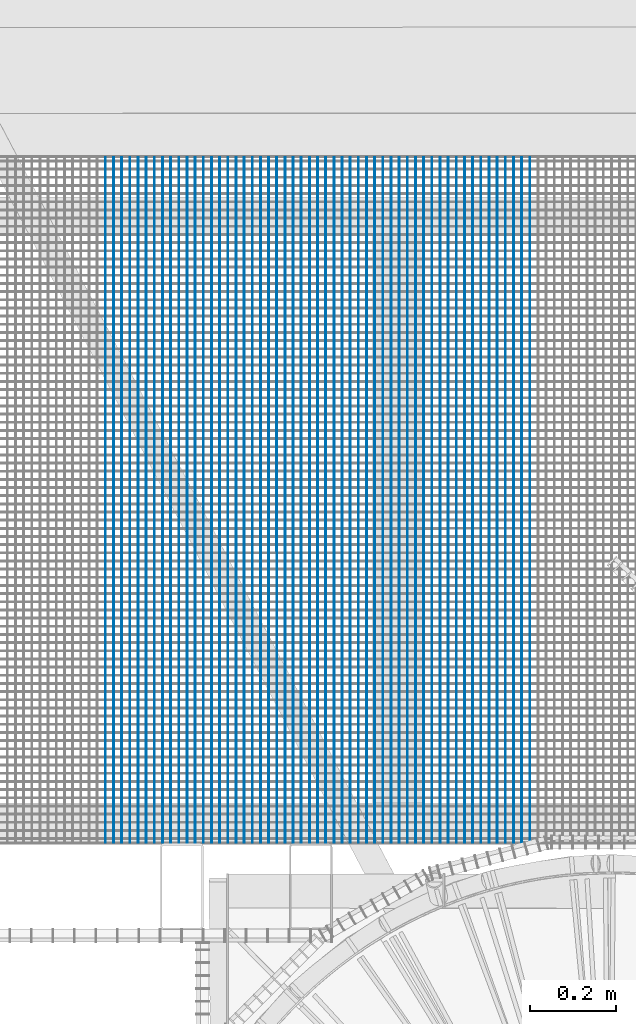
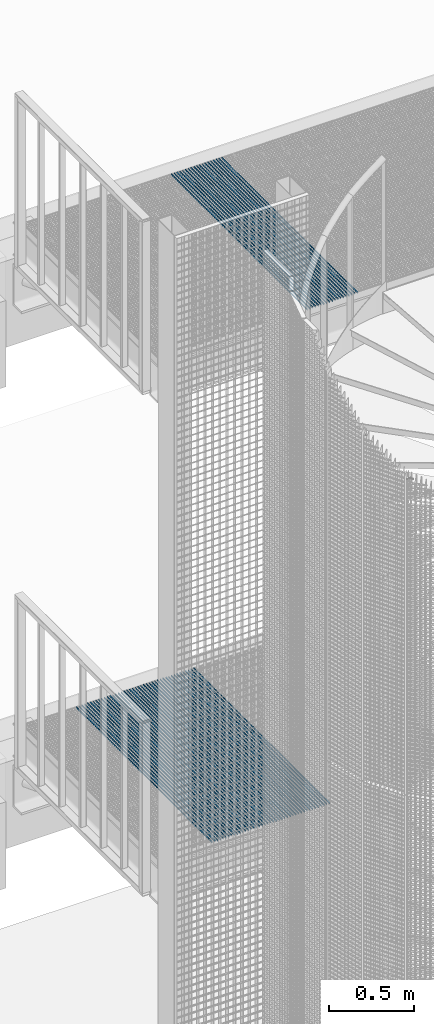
# One storey, part 93 of 1148: 62 beams, 2 elements without a shape of their own.
"""IFC2X3 building model written with IfcOpenShell, lengths in millimetres."""

import ifcopenshell
import ifcopenshell.guid

model = None  # the IFC model being written
_history = None  # IfcOwnerHistory: only IFC2X3 demands one
_inside = {}  # id of a spatial element -> (the spatial element, [elements in it])
_under = {}  # id of a project, library or spatial element -> (it, [spatial elements below it])
_declared = {}  # id of a project -> (the project, [libraries it declares])
_typed = {}  # id of a type object -> (the type object, [elements of that type])
_made_of = {}  # id of a material, layer set ... -> (it, [elements and type objects made of it])


def new_model(schema):
    """Start an empty IFC model of exactly this schema.

    Asked for "IFC4X3", IfcOpenShell would pick the latest addendum, in which some entities
    have other attributes; the version numbers below select the first issue.
    IFC2X3 requires an IfcOwnerHistory on every rooted entity: one is made here for all.
    """
    global model, _history
    if schema == "IFC4X3":
        model = ifcopenshell.file(schema_version=(4, 3, 0, 0))
    else:
        model = ifcopenshell.file(schema=schema)
    _inside.clear()
    _under.clear()
    _declared.clear()
    _typed.clear()
    _made_of.clear()
    _history = None
    if model.schema == "IFC2X3":
        org = make("IfcOrganization", Name="unknown")
        user = make(
            "IfcPersonAndOrganization",
            ThePerson=make("IfcPerson", FamilyName="unknown"),
            TheOrganization=org,
        )
        app = make(
            "IfcApplication",
            ApplicationDeveloper=org,
            Version="unknown",
            ApplicationFullName="unknown",
            ApplicationIdentifier="unknown",
        )
        _history = make(
            "IfcOwnerHistory",
            OwningUser=user,
            OwningApplication=app,
            ChangeAction="ADDED",
            CreationDate=0,
        )
    return model


def make(cls, **values):
    """One entity of the class cls with the attributes given. An attribute that is None is left unset."""
    return model.create_entity(
        cls, **{name: value for name, value in values.items() if value is not None}
    )


def rooted(cls, **values):
    """An entity with a GlobalId (a new one), such as an element, a storey or a relation."""
    return make(cls, GlobalId=ifcopenshell.guid.new(), OwnerHistory=_history, **values)


def si_unit(unit_type, name, prefix=None):
    """IfcSIUnit, for example si_unit("LENGTHUNIT", "METRE", prefix="MILLI")."""
    return make("IfcSIUnit", UnitType=unit_type, Prefix=prefix, Name=name)


def assignment(units):
    """IfcUnitAssignment: the units of a project."""
    return None if units is None else make("IfcUnitAssignment", Units=units)


def point(xyz):
    """IfcCartesianPoint."""
    return None if xyz is None else make("IfcCartesianPoint", Coordinates=xyz)


def direction(xyz):
    """IfcDirection."""
    return None if xyz is None else make("IfcDirection", DirectionRatios=xyz)


def frame(location, z_axis=None, x_axis=None):
    """IfcAxis2Placement3D, a coordinate frame: its origin and axes. An axis left out is left unset."""
    return make(
        "IfcAxis2Placement3D",
        Location=point(location),
        Axis=direction(z_axis),
        RefDirection=direction(x_axis),
    )


def frame_2d(location, x_axis=None):
    """IfcAxis2Placement2D, a coordinate frame in the plane: its origin and x axis."""
    return make(
        "IfcAxis2Placement2D", Location=point(location), RefDirection=direction(x_axis)
    )


def origin_with_axes():
    """The frame at (0, 0, 0) with the z axis (0, 0, 1) and the x axis (1, 0, 0) written out."""
    return frame((0.0, 0.0, 0.0), z_axis=(0.0, 0.0, 1.0), x_axis=(1.0, 0.0, 0.0))


def origin_2d_with_axis():
    """The frame at (0, 0) in the plane with the x axis (1, 0) written out."""
    return frame_2d((0.0, 0.0), x_axis=(1.0, 0.0))


def place(relative_to, where):
    """IfcLocalPlacement: puts the frame where relative to a parent placement (None: the world)."""
    return make(
        "IfcLocalPlacement", PlacementRelTo=relative_to, RelativePlacement=where
    )


def context(
    kind, dimensions, precision=None, world=None, true_north=None, identifier=None
):
    """IfcGeometricRepresentationContext, for example the 3D "Model" context."""
    return make(
        "IfcGeometricRepresentationContext",
        ContextIdentifier=identifier,
        ContextType=kind,
        CoordinateSpaceDimension=dimensions,
        Precision=precision,
        WorldCoordinateSystem=world,
        TrueNorth=true_north,
    )


def subcontext(parent, identifier, kind, view, scale=None):
    """IfcGeometricRepresentationSubContext, for example "Body" below "Model"."""
    return make(
        "IfcGeometricRepresentationSubContext",
        ContextIdentifier=identifier,
        ContextType=kind,
        ParentContext=parent,
        TargetScale=scale,
        TargetView=view,
    )


def project(units=None, contexts=None):
    """IfcProject with its units and contexts."""
    return rooted(
        "IfcProject",
        Name="project",
        RepresentationContexts=contexts,
        UnitsInContext=assignment(units),
    )


def spatial(cls, under=None, at=None, **own):
    """A site, building, storey or space (cls), placed at a placement, below another one or the project."""
    s = rooted(cls, ObjectPlacement=at, **own)
    if under is not None:
        _under.setdefault(under.id(), (under, []))[1].append(s)
    return s


def profile(cls, at=None, kind="AREA", **sizes):
    """A parametric profile (cls). Its sizes go by their IFC names, for example OverallWidth=200.0."""
    return make(cls, ProfileType=kind, Position=at, **sizes)


def rectangle(**sizes):
    """IfcRectangleProfileDef."""
    return profile("IfcRectangleProfileDef", **sizes)


def extrude(swept, where, along, depth):
    """IfcExtrudedAreaSolid: the profile swept, set in the frame where, extruded along a direction by depth."""
    return make(
        "IfcExtrudedAreaSolid",
        SweptArea=swept,
        Position=where,
        ExtrudedDirection=direction(along),
        Depth=depth,
    )


def shape(context_of_items, identifier, shape_type, items):
    """IfcShapeRepresentation: the items that make up one representation, for example the "Body"."""
    return make(
        "IfcShapeRepresentation",
        ContextOfItems=context_of_items,
        RepresentationIdentifier=identifier,
        RepresentationType=shape_type,
        Items=items,
    )


def material(Name=None, Category=None):
    """IfcMaterial."""
    return make("IfcMaterial", Name=Name, Category=Category)


def made_of(thing, what):
    """Note that an element or type object is made of a material, layer set ...; save() writes the relation."""
    if what is not None:
        _made_of.setdefault(what.id(), (what, []))[1].append(thing)
    return thing


def type_object(cls, material=None, **own):
    """A type object (cls), such as IfcWallType, which elements share."""
    return made_of(rooted(cls, **own), material)


def element(
    cls,
    number,
    at=None,
    inside=None,
    cuts=None,
    type_object=None,
    material=None,
    context=None,
    identifier="Body",
    shape_type=None,
    held_by="IfcProductDefinitionShape",
    body=None,
    shapes=None,
    **own,
):
    """One element of the class cls, such as IfcWall. Its Tag is "e" and its number.

    at: its placement. inside: the storey or other place that contains it. cuts: it is an
    opening in that element (IfcRelVoidsElement). A single representation is given by context,
    identifier, shape_type and body (its items); several are given by shapes. held_by: the class
    of the entity that holds the representations. save() writes the other relations.
    """
    e = rooted(cls, Tag="e%d" % number, ObjectPlacement=at, **own)
    if body is not None:
        shapes = [shape(context, identifier, shape_type, body)]
    if shapes is not None:
        e.Representation = make(held_by, Representations=shapes)
    if inside is not None:
        _inside.setdefault(inside.id(), (inside, []))[1].append(e)
    if cuts is not None:
        rooted(
            "IfcRelVoidsElement", RelatingBuildingElement=cuts, RelatedOpeningElement=e
        )
    if type_object is not None:
        _typed.setdefault(type_object.id(), (type_object, []))[1].append(e)
    return made_of(e, material)


def aggregate(whole, parts):
    """IfcRelAggregates: a whole, such as a stair, and the parts it consists of."""
    return rooted("IfcRelAggregates", RelatingObject=whole, RelatedObjects=parts)


def save(model, path):
    """Write the relations noted so far, then the file.

    IfcRelAggregates (storeys below a building ...), IfcRelContainedInSpatialStructure (elements
    in a storey), IfcRelDefinesByType, IfcRelAssociatesMaterial and IfcRelDeclares: one each for
    every whole, place, type object, material and project.
    """
    for whole, parts in _under.values():
        aggregate(whole, parts)
    for where, things in _inside.values():
        rooted(
            "IfcRelContainedInSpatialStructure",
            RelatedElements=things,
            RelatingStructure=where,
        )
    for kind, things in _typed.values():
        rooted("IfcRelDefinesByType", RelatedObjects=things, RelatingType=kind)
    for what, things in _made_of.values():
        rooted("IfcRelAssociatesMaterial", RelatedObjects=things, RelatingMaterial=what)
    for by, libraries in _declared.values():
        rooted("IfcRelDeclares", RelatingContext=by, RelatedDefinitions=libraries)
    model.write(path)


model = new_model("IFC2X3")

# Units and contexts
model_context = context("Model", 3, precision=1e-05, world=origin_with_axes())
body_context = subcontext(model_context, "Body", "Model", "MODEL_VIEW")
ifc_project = project(units=[si_unit("LENGTHUNIT", "METRE", prefix="MILLI"), si_unit("AREAUNIT", "SQUARE_METRE"), si_unit("VOLUMEUNIT", "CUBIC_METRE"), si_unit("MASSUNIT", "GRAM", prefix="KILO"), si_unit("TIMEUNIT", "SECOND"), si_unit("PLANEANGLEUNIT", "RADIAN"), si_unit("SOLIDANGLEUNIT", "STERADIAN"), si_unit("THERMODYNAMICTEMPERATUREUNIT", "DEGREE_CELSIUS"), si_unit("LUMINOUSINTENSITYUNIT", "LUMEN")], contexts=[model_context])

# Site, building, storey
site_placement = place(None, origin_with_axes())
site = spatial("IfcSite", under=ifc_project, at=site_placement, Name="Undefined", CompositionType="ELEMENT")
building_placement = place(site_placement, origin_with_axes())
building = spatial("IfcBuilding", under=site, at=building_placement, Name="Undefined", CompositionType="ELEMENT")
storey_placement = place(building_placement, origin_with_axes())
storey = spatial("IfcBuildingStorey", under=building, at=storey_placement, Name="Undefined", CompositionType="ELEMENT", Elevation=0.0)

# Assembly, beams
assembly_1_placement = place(storey_placement, origin_with_axes())
assembly_1 = element("IfcElementAssembly", 1, at=assembly_1_placement, inside=storey, Name="BORDURE", AssemblyPlace="NOTDEFINED", PredefinedType="NOTDEFINED")
ifc_material = material(Name="STEEL/S235JR")
beam_type = type_object("IfcBeamType", Name="PL2*10", PredefinedType="NOTDEFINED")
beam_1_placement = place(assembly_1_placement, frame((21068.1154247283, 1101.99970052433, 17285.0), z_axis=(0.0, 0.0, 1.0), x_axis=(-4.50599999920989e-06, 0.999999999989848, 0.0)))
beam_1 = element("IfcBeam", 2, at=beam_1_placement, type_object=beam_type, material=ifc_material, Name="ENTRETOISE", context=body_context, shape_type="SweptSolid", body=[
    extrude(rectangle(XDim=2.0, YDim=10.0, at=origin_2d_with_axis()), frame((1596.0000000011, -1.35186458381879e-18, -7.27595761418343e-12), z_axis=(-1.0, 0.0, 0.0), x_axis=(0.0, -1.0, 0.0)), (0.0, 0.0, 1.0), 1596.0),
])
beam_2_placement = place(assembly_1_placement, frame((21087.1154247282, 1101.99979404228, 17285.0), z_axis=(0.0, 0.0, 1.0), x_axis=(-4.50599999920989e-06, 0.999999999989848, 0.0)))
beam_2 = element("IfcBeam", 3, at=beam_2_placement, type_object=beam_type, material=ifc_material, Name="ENTRETOISE", context=body_context, shape_type="SweptSolid", body=[
    extrude(rectangle(XDim=2.0, YDim=10.0, at=origin_2d_with_axis()), frame((1596.0000000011, -1.35186458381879e-18, -7.27595761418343e-12), z_axis=(-1.0, 0.0, 0.0), x_axis=(0.0, -1.0, 0.0)), (0.0, 0.0, 1.0), 1596.0),
])
beam_3_placement = place(assembly_1_placement, frame((21106.1154247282, 1101.99988756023, 17285.0), z_axis=(0.0, 0.0, 1.0), x_axis=(-4.50599999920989e-06, 0.999999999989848, 0.0)))
beam_3 = element("IfcBeam", 4, at=beam_3_placement, type_object=beam_type, material=ifc_material, Name="ENTRETOISE", context=body_context, shape_type="SweptSolid", body=[
    extrude(rectangle(XDim=2.0, YDim=10.0, at=origin_2d_with_axis()), frame((1596.0000000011, -1.35186458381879e-18, -7.27595761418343e-12), z_axis=(-1.0, 0.0, 0.0), x_axis=(0.0, -1.0, 0.0)), (0.0, 0.0, 1.0), 1596.0),
])
beam_4_placement = place(assembly_1_placement, frame((21125.1154247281, 1101.99998107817, 17285.0), z_axis=(0.0, 0.0, 1.0), x_axis=(-4.50599999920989e-06, 0.999999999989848, 0.0)))
beam_4 = element("IfcBeam", 5, at=beam_4_placement, type_object=beam_type, material=ifc_material, Name="ENTRETOISE", context=body_context, shape_type="SweptSolid", body=[
    extrude(rectangle(XDim=2.0, YDim=10.0, at=origin_2d_with_axis()), frame((1596.0000000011, -1.35186458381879e-18, -7.27595761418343e-12), z_axis=(-1.0, 0.0, 0.0), x_axis=(0.0, -1.0, 0.0)), (0.0, 0.0, 1.0), 1596.0),
])
beam_5_placement = place(assembly_1_placement, frame((21144.115424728, 1102.00007459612, 17285.0), z_axis=(0.0, 0.0, 1.0), x_axis=(-4.50599999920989e-06, 0.999999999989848, 0.0)))
beam_5 = element("IfcBeam", 6, at=beam_5_placement, type_object=beam_type, material=ifc_material, Name="ENTRETOISE", context=body_context, shape_type="SweptSolid", body=[
    extrude(rectangle(XDim=2.0, YDim=10.0, at=origin_2d_with_axis()), frame((1596.0000000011, -1.35186458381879e-18, -7.27595761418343e-12), z_axis=(-1.0, 0.0, 0.0), x_axis=(0.0, -1.0, 0.0)), (0.0, 0.0, 1.0), 1596.0),
])
beam_6_placement = place(assembly_1_placement, frame((21163.1154247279, 1102.00016811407, 17285.0), z_axis=(0.0, 0.0, 1.0), x_axis=(-4.50599999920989e-06, 0.999999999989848, 0.0)))
beam_6 = element("IfcBeam", 7, at=beam_6_placement, type_object=beam_type, material=ifc_material, Name="ENTRETOISE", context=body_context, shape_type="SweptSolid", body=[
    extrude(rectangle(XDim=2.0, YDim=10.0, at=origin_2d_with_axis()), frame((1596.0000000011, -1.35186458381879e-18, -7.27595761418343e-12), z_axis=(-1.0, 0.0, 0.0), x_axis=(0.0, -1.0, 0.0)), (0.0, 0.0, 1.0), 1596.0),
])
beam_7_placement = place(assembly_1_placement, frame((21182.1154247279, 1102.00026163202, 17285.0), z_axis=(0.0, 0.0, 1.0), x_axis=(-4.50599999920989e-06, 0.999999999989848, 0.0)))
beam_7 = element("IfcBeam", 8, at=beam_7_placement, type_object=beam_type, material=ifc_material, Name="ENTRETOISE", context=body_context, shape_type="SweptSolid", body=[
    extrude(rectangle(XDim=2.0, YDim=10.0, at=origin_2d_with_axis()), frame((1596.0000000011, -1.35186458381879e-18, -7.27595761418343e-12), z_axis=(-1.0, 0.0, 0.0), x_axis=(0.0, -1.0, 0.0)), (0.0, 0.0, 1.0), 1596.0),
])
beam_8_placement = place(assembly_1_placement, frame((21201.1154247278, 1102.00035514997, 17285.0), z_axis=(0.0, 0.0, 1.0), x_axis=(-4.50599999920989e-06, 0.999999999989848, 0.0)))
beam_8 = element("IfcBeam", 9, at=beam_8_placement, type_object=beam_type, material=ifc_material, Name="ENTRETOISE", context=body_context, shape_type="SweptSolid", body=[
    extrude(rectangle(XDim=2.0, YDim=10.0, at=origin_2d_with_axis()), frame((1596.0000000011, -1.35186458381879e-18, -7.27595761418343e-12), z_axis=(-1.0, 0.0, 0.0), x_axis=(0.0, -1.0, 0.0)), (0.0, 0.0, 1.0), 1596.0),
])
beam_9_placement = place(assembly_1_placement, frame((21220.1154247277, 1102.00044866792, 17285.0), z_axis=(0.0, 0.0, 1.0), x_axis=(-4.50599999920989e-06, 0.999999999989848, 0.0)))
beam_9 = element("IfcBeam", 10, at=beam_9_placement, type_object=beam_type, material=ifc_material, Name="ENTRETOISE", context=body_context, shape_type="SweptSolid", body=[
    extrude(rectangle(XDim=2.0, YDim=10.0, at=origin_2d_with_axis()), frame((1596.0000000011, -1.35186458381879e-18, -7.27595761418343e-12), z_axis=(-1.0, 0.0, 0.0), x_axis=(0.0, -1.0, 0.0)), (0.0, 0.0, 1.0), 1596.0),
])
beam_10_placement = place(assembly_1_placement, frame((21239.1154247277, 1102.00054218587, 17285.0), z_axis=(0.0, 0.0, 1.0), x_axis=(-4.50599999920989e-06, 0.999999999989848, 0.0)))
beam_10 = element("IfcBeam", 11, at=beam_10_placement, type_object=beam_type, material=ifc_material, Name="ENTRETOISE", context=body_context, shape_type="SweptSolid", body=[
    extrude(rectangle(XDim=2.0, YDim=10.0, at=origin_2d_with_axis()), frame((1596.0000000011, -1.35186458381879e-18, -7.27595761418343e-12), z_axis=(-1.0, 0.0, 0.0), x_axis=(0.0, -1.0, 0.0)), (0.0, 0.0, 1.0), 1596.0),
])
beam_11_placement = place(assembly_1_placement, frame((21258.1154247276, 1102.00063570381, 17285.0), z_axis=(0.0, 0.0, 1.0), x_axis=(-4.50599999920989e-06, 0.999999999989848, 0.0)))
beam_11 = element("IfcBeam", 12, at=beam_11_placement, type_object=beam_type, material=ifc_material, Name="ENTRETOISE", context=body_context, shape_type="SweptSolid", body=[
    extrude(rectangle(XDim=2.0, YDim=10.0, at=origin_2d_with_axis()), frame((1596.0000000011, -1.35186458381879e-18, -7.27595761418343e-12), z_axis=(-1.0, 0.0, 0.0), x_axis=(0.0, -1.0, 0.0)), (0.0, 0.0, 1.0), 1596.0),
])
beam_12_placement = place(assembly_1_placement, frame((21277.1154247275, 1102.00072922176, 17285.0), z_axis=(0.0, 0.0, 1.0), x_axis=(-4.50599999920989e-06, 0.999999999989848, 0.0)))
beam_12 = element("IfcBeam", 13, at=beam_12_placement, type_object=beam_type, material=ifc_material, Name="ENTRETOISE", context=body_context, shape_type="SweptSolid", body=[
    extrude(rectangle(XDim=2.0, YDim=10.0, at=origin_2d_with_axis()), frame((1596.0000000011, -1.35186458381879e-18, -7.27595761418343e-12), z_axis=(-1.0, 0.0, 0.0), x_axis=(0.0, -1.0, 0.0)), (0.0, 0.0, 1.0), 1596.0),
])
beam_13_placement = place(assembly_1_placement, frame((21296.1154247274, 1102.00082273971, 17285.0), z_axis=(0.0, 0.0, 1.0), x_axis=(-4.50599999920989e-06, 0.999999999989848, 0.0)))
beam_13 = element("IfcBeam", 14, at=beam_13_placement, type_object=beam_type, material=ifc_material, Name="ENTRETOISE", context=body_context, shape_type="SweptSolid", body=[
    extrude(rectangle(XDim=2.0, YDim=10.0, at=origin_2d_with_axis()), frame((1596.0000000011, -1.35186458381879e-18, -7.27595761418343e-12), z_axis=(-1.0, 0.0, 0.0), x_axis=(0.0, -1.0, 0.0)), (0.0, 0.0, 1.0), 1596.0),
])
beam_14_placement = place(assembly_1_placement, frame((21315.1154247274, 1102.00091625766, 17285.0), z_axis=(0.0, 0.0, 1.0), x_axis=(-4.50599999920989e-06, 0.999999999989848, 0.0)))
beam_14 = element("IfcBeam", 15, at=beam_14_placement, type_object=beam_type, material=ifc_material, Name="ENTRETOISE", context=body_context, shape_type="SweptSolid", body=[
    extrude(rectangle(XDim=2.0, YDim=10.0, at=origin_2d_with_axis()), frame((1596.0000000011, -1.35186458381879e-18, -7.27595761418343e-12), z_axis=(-1.0, 0.0, 0.0), x_axis=(0.0, -1.0, 0.0)), (0.0, 0.0, 1.0), 1596.0),
])
beam_15_placement = place(assembly_1_placement, frame((21334.1154247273, 1102.00100977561, 17285.0), z_axis=(0.0, 0.0, 1.0), x_axis=(-4.50599999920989e-06, 0.999999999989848, 0.0)))
beam_15 = element("IfcBeam", 16, at=beam_15_placement, type_object=beam_type, material=ifc_material, Name="ENTRETOISE", context=body_context, shape_type="SweptSolid", body=[
    extrude(rectangle(XDim=2.0, YDim=10.0, at=origin_2d_with_axis()), frame((1596.0000000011, -1.35186458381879e-18, -7.27595761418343e-12), z_axis=(-1.0, 0.0, 0.0), x_axis=(0.0, -1.0, 0.0)), (0.0, 0.0, 1.0), 1596.0),
])
beam_16_placement = place(assembly_1_placement, frame((21353.1154247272, 1102.00110329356, 17285.0), z_axis=(0.0, 0.0, 1.0), x_axis=(-4.50599999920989e-06, 0.999999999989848, 0.0)))
beam_16 = element("IfcBeam", 17, at=beam_16_placement, type_object=beam_type, material=ifc_material, Name="ENTRETOISE", context=body_context, shape_type="SweptSolid", body=[
    extrude(rectangle(XDim=2.0, YDim=10.0, at=origin_2d_with_axis()), frame((1596.0000000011, -1.35186458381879e-18, -7.27595761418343e-12), z_axis=(-1.0, 0.0, 0.0), x_axis=(0.0, -1.0, 0.0)), (0.0, 0.0, 1.0), 1596.0),
])
beam_17_placement = place(assembly_1_placement, frame((21372.1154247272, 1102.0011968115, 17285.0), z_axis=(0.0, 0.0, 1.0), x_axis=(-4.50599999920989e-06, 0.999999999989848, 0.0)))
beam_17 = element("IfcBeam", 18, at=beam_17_placement, type_object=beam_type, material=ifc_material, Name="ENTRETOISE", context=body_context, shape_type="SweptSolid", body=[
    extrude(rectangle(XDim=2.0, YDim=10.0, at=origin_2d_with_axis()), frame((1596.0000000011, -1.35186458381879e-18, -7.27595761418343e-12), z_axis=(-1.0, 0.0, 0.0), x_axis=(0.0, -1.0, 0.0)), (0.0, 0.0, 1.0), 1596.0),
])
beam_18_placement = place(assembly_1_placement, frame((21391.1154247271, 1102.00129032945, 17285.0), z_axis=(0.0, 0.0, 1.0), x_axis=(-4.50599999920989e-06, 0.999999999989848, 0.0)))
beam_18 = element("IfcBeam", 19, at=beam_18_placement, type_object=beam_type, material=ifc_material, Name="ENTRETOISE", context=body_context, shape_type="SweptSolid", body=[
    extrude(rectangle(XDim=2.0, YDim=10.0, at=origin_2d_with_axis()), frame((1596.0000000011, -1.35186458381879e-18, -7.27595761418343e-12), z_axis=(-1.0, 0.0, 0.0), x_axis=(0.0, -1.0, 0.0)), (0.0, 0.0, 1.0), 1596.0),
])
beam_19_placement = place(assembly_1_placement, frame((21410.115424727, 1102.0013838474, 17285.0), z_axis=(0.0, 0.0, 1.0), x_axis=(-4.50599999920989e-06, 0.999999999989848, 0.0)))
beam_19 = element("IfcBeam", 20, at=beam_19_placement, type_object=beam_type, material=ifc_material, Name="ENTRETOISE", context=body_context, shape_type="SweptSolid", body=[
    extrude(rectangle(XDim=2.0, YDim=10.0, at=origin_2d_with_axis()), frame((1596.0000000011, -1.35186458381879e-18, -7.27595761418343e-12), z_axis=(-1.0, 0.0, 0.0), x_axis=(0.0, -1.0, 0.0)), (0.0, 0.0, 1.0), 1596.0),
])
aggregate(assembly_1, [beam_1, beam_2, beam_3, beam_4, beam_5, beam_6, beam_7, beam_8, beam_9, beam_10, beam_11, beam_12, beam_13, beam_14, beam_15, beam_16, beam_17, beam_18, beam_19])

assembly_2_placement = place(storey_placement, origin_with_axes())
assembly_2 = element("IfcElementAssembly", 21, at=assembly_2_placement, inside=storey, Name="BORDURE", AssemblyPlace="NOTDEFINED", PredefinedType="NOTDEFINED")
beam_20_placement = place(assembly_2_placement, frame((20422.1154247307, 1101.99652091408, 13685.0), z_axis=(0.0, 0.0, 1.0), x_axis=(-4.50599999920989e-06, 0.999999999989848, 0.0)))
beam_20 = element("IfcBeam", 22, at=beam_20_placement, type_object=beam_type, material=ifc_material, Name="ENTRETOISE", context=body_context, shape_type="SweptSolid", body=[
    extrude(rectangle(XDim=2.0, YDim=10.0, at=origin_2d_with_axis()), frame((1596.0000000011, -1.35186458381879e-18, -7.27595761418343e-12), z_axis=(-1.0, 0.0, 0.0), x_axis=(0.0, -1.0, 0.0)), (0.0, 0.0, 1.0), 1596.0),
])
beam_21_placement = place(assembly_2_placement, frame((20441.1154247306, 1101.99661443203, 13685.0), z_axis=(0.0, 0.0, 1.0), x_axis=(-4.50599999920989e-06, 0.999999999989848, 0.0)))
beam_21 = element("IfcBeam", 23, at=beam_21_placement, type_object=beam_type, material=ifc_material, Name="ENTRETOISE", context=body_context, shape_type="SweptSolid", body=[
    extrude(rectangle(XDim=2.0, YDim=10.0, at=origin_2d_with_axis()), frame((1596.0000000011, -1.35186458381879e-18, -7.27595761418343e-12), z_axis=(-1.0, 0.0, 0.0), x_axis=(0.0, -1.0, 0.0)), (0.0, 0.0, 1.0), 1596.0),
])
beam_22_placement = place(assembly_2_placement, frame((20460.1154247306, 1101.99670794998, 13685.0), z_axis=(0.0, 0.0, 1.0), x_axis=(-4.50599999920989e-06, 0.999999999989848, 0.0)))
beam_22 = element("IfcBeam", 24, at=beam_22_placement, type_object=beam_type, material=ifc_material, Name="ENTRETOISE", context=body_context, shape_type="SweptSolid", body=[
    extrude(rectangle(XDim=2.0, YDim=10.0, at=origin_2d_with_axis()), frame((1596.0000000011, -1.35186458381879e-18, -7.27595761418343e-12), z_axis=(-1.0, 0.0, 0.0), x_axis=(0.0, -1.0, 0.0)), (0.0, 0.0, 1.0), 1596.0),
])
beam_23_placement = place(assembly_2_placement, frame((20479.1154247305, 1101.99680146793, 13685.0), z_axis=(0.0, 0.0, 1.0), x_axis=(-4.50599999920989e-06, 0.999999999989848, 0.0)))
beam_23 = element("IfcBeam", 25, at=beam_23_placement, type_object=beam_type, material=ifc_material, Name="ENTRETOISE", context=body_context, shape_type="SweptSolid", body=[
    extrude(rectangle(XDim=2.0, YDim=10.0, at=origin_2d_with_axis()), frame((1596.0000000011, -1.35186458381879e-18, -7.27595761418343e-12), z_axis=(-1.0, 0.0, 0.0), x_axis=(0.0, -1.0, 0.0)), (0.0, 0.0, 1.0), 1596.0),
])
beam_24_placement = place(assembly_2_placement, frame((20498.1154247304, 1101.99689498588, 13685.0), z_axis=(0.0, 0.0, 1.0), x_axis=(-4.50599999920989e-06, 0.999999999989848, 0.0)))
beam_24 = element("IfcBeam", 26, at=beam_24_placement, type_object=beam_type, material=ifc_material, Name="ENTRETOISE", context=body_context, shape_type="SweptSolid", body=[
    extrude(rectangle(XDim=2.0, YDim=10.0, at=origin_2d_with_axis()), frame((1596.0000000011, -1.35186458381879e-18, -7.27595761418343e-12), z_axis=(-1.0, 0.0, 0.0), x_axis=(0.0, -1.0, 0.0)), (0.0, 0.0, 1.0), 1596.0),
])
beam_25_placement = place(assembly_2_placement, frame((20517.1154247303, 1101.99698850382, 13685.0), z_axis=(0.0, 0.0, 1.0), x_axis=(-4.50599999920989e-06, 0.999999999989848, 0.0)))
beam_25 = element("IfcBeam", 27, at=beam_25_placement, type_object=beam_type, material=ifc_material, Name="ENTRETOISE", context=body_context, shape_type="SweptSolid", body=[
    extrude(rectangle(XDim=2.0, YDim=10.0, at=origin_2d_with_axis()), frame((1596.0000000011, -1.35186458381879e-18, -7.27595761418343e-12), z_axis=(-1.0, 0.0, 0.0), x_axis=(0.0, -1.0, 0.0)), (0.0, 0.0, 1.0), 1596.0),
])
beam_26_placement = place(assembly_2_placement, frame((20536.1154247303, 1101.99708202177, 13685.0), z_axis=(0.0, 0.0, 1.0), x_axis=(-4.50599999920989e-06, 0.999999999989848, 0.0)))
beam_26 = element("IfcBeam", 28, at=beam_26_placement, type_object=beam_type, material=ifc_material, Name="ENTRETOISE", context=body_context, shape_type="SweptSolid", body=[
    extrude(rectangle(XDim=2.0, YDim=10.0, at=origin_2d_with_axis()), frame((1596.0000000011, -1.35186458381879e-18, -7.27595761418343e-12), z_axis=(-1.0, 0.0, 0.0), x_axis=(0.0, -1.0, 0.0)), (0.0, 0.0, 1.0), 1596.0),
])
beam_27_placement = place(assembly_2_placement, frame((20555.1154247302, 1101.99717553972, 13685.0), z_axis=(0.0, 0.0, 1.0), x_axis=(-4.50599999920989e-06, 0.999999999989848, 0.0)))
beam_27 = element("IfcBeam", 29, at=beam_27_placement, type_object=beam_type, material=ifc_material, Name="ENTRETOISE", context=body_context, shape_type="SweptSolid", body=[
    extrude(rectangle(XDim=2.0, YDim=10.0, at=origin_2d_with_axis()), frame((1596.0000000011, -1.35186458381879e-18, -7.27595761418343e-12), z_axis=(-1.0, 0.0, 0.0), x_axis=(0.0, -1.0, 0.0)), (0.0, 0.0, 1.0), 1596.0),
])
beam_28_placement = place(assembly_2_placement, frame((20574.1154247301, 1101.99726905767, 13685.0), z_axis=(0.0, 0.0, 1.0), x_axis=(-4.50599999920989e-06, 0.999999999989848, 0.0)))
beam_28 = element("IfcBeam", 30, at=beam_28_placement, type_object=beam_type, material=ifc_material, Name="ENTRETOISE", context=body_context, shape_type="SweptSolid", body=[
    extrude(rectangle(XDim=2.0, YDim=10.0, at=origin_2d_with_axis()), frame((1596.0000000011, -1.35186458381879e-18, -7.27595761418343e-12), z_axis=(-1.0, 0.0, 0.0), x_axis=(0.0, -1.0, 0.0)), (0.0, 0.0, 1.0), 1596.0),
])
beam_29_placement = place(assembly_2_placement, frame((20593.1154247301, 1101.99736257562, 13685.0), z_axis=(0.0, 0.0, 1.0), x_axis=(-4.50599999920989e-06, 0.999999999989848, 0.0)))
beam_29 = element("IfcBeam", 31, at=beam_29_placement, type_object=beam_type, material=ifc_material, Name="ENTRETOISE", context=body_context, shape_type="SweptSolid", body=[
    extrude(rectangle(XDim=2.0, YDim=10.0, at=origin_2d_with_axis()), frame((1596.0000000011, -1.35186458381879e-18, -7.27595761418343e-12), z_axis=(-1.0, 0.0, 0.0), x_axis=(0.0, -1.0, 0.0)), (0.0, 0.0, 1.0), 1596.0),
])
beam_30_placement = place(assembly_2_placement, frame((20612.11542473, 1101.99745609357, 13685.0), z_axis=(0.0, 0.0, 1.0), x_axis=(-4.50599999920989e-06, 0.999999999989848, 0.0)))
beam_30 = element("IfcBeam", 32, at=beam_30_placement, type_object=beam_type, material=ifc_material, Name="ENTRETOISE", context=body_context, shape_type="SweptSolid", body=[
    extrude(rectangle(XDim=2.0, YDim=10.0, at=origin_2d_with_axis()), frame((1596.0000000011, -1.35186458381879e-18, -7.27595761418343e-12), z_axis=(-1.0, 0.0, 0.0), x_axis=(0.0, -1.0, 0.0)), (0.0, 0.0, 1.0), 1596.0),
])
beam_31_placement = place(assembly_2_placement, frame((20631.1154247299, 1101.99754961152, 13685.0), z_axis=(0.0, 0.0, 1.0), x_axis=(-4.50599999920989e-06, 0.999999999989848, 0.0)))
beam_31 = element("IfcBeam", 33, at=beam_31_placement, type_object=beam_type, material=ifc_material, Name="ENTRETOISE", context=body_context, shape_type="SweptSolid", body=[
    extrude(rectangle(XDim=2.0, YDim=10.0, at=origin_2d_with_axis()), frame((1596.0000000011, -1.35186458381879e-18, -7.27595761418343e-12), z_axis=(-1.0, 0.0, 0.0), x_axis=(0.0, -1.0, 0.0)), (0.0, 0.0, 1.0), 1596.0),
])
beam_32_placement = place(assembly_2_placement, frame((20650.1154247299, 1101.99764312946, 13685.0), z_axis=(0.0, 0.0, 1.0), x_axis=(-4.50599999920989e-06, 0.999999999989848, 0.0)))
beam_32 = element("IfcBeam", 34, at=beam_32_placement, type_object=beam_type, material=ifc_material, Name="ENTRETOISE", context=body_context, shape_type="SweptSolid", body=[
    extrude(rectangle(XDim=2.0, YDim=10.0, at=origin_2d_with_axis()), frame((1596.0000000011, -1.35186458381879e-18, -7.27595761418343e-12), z_axis=(-1.0, 0.0, 0.0), x_axis=(0.0, -1.0, 0.0)), (0.0, 0.0, 1.0), 1596.0),
])
beam_33_placement = place(assembly_2_placement, frame((20669.1154247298, 1101.99773664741, 13685.0), z_axis=(0.0, 0.0, 1.0), x_axis=(-4.50599999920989e-06, 0.999999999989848, 0.0)))
beam_33 = element("IfcBeam", 35, at=beam_33_placement, type_object=beam_type, material=ifc_material, Name="ENTRETOISE", context=body_context, shape_type="SweptSolid", body=[
    extrude(rectangle(XDim=2.0, YDim=10.0, at=origin_2d_with_axis()), frame((1596.0000000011, -1.35186458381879e-18, -7.27595761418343e-12), z_axis=(-1.0, 0.0, 0.0), x_axis=(0.0, -1.0, 0.0)), (0.0, 0.0, 1.0), 1596.0),
])
beam_34_placement = place(assembly_2_placement, frame((20688.1154247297, 1101.99783016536, 13685.0), z_axis=(0.0, 0.0, 1.0), x_axis=(-4.50599999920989e-06, 0.999999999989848, 0.0)))
beam_34 = element("IfcBeam", 36, at=beam_34_placement, type_object=beam_type, material=ifc_material, Name="ENTRETOISE", context=body_context, shape_type="SweptSolid", body=[
    extrude(rectangle(XDim=2.0, YDim=10.0, at=origin_2d_with_axis()), frame((1596.0000000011, -1.35186458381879e-18, -7.27595761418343e-12), z_axis=(-1.0, 0.0, 0.0), x_axis=(0.0, -1.0, 0.0)), (0.0, 0.0, 1.0), 1596.0),
])
beam_35_placement = place(assembly_2_placement, frame((20707.1154247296, 1101.99792368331, 13685.0), z_axis=(0.0, 0.0, 1.0), x_axis=(-4.50599999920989e-06, 0.999999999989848, 0.0)))
beam_35 = element("IfcBeam", 37, at=beam_35_placement, type_object=beam_type, material=ifc_material, Name="ENTRETOISE", context=body_context, shape_type="SweptSolid", body=[
    extrude(rectangle(XDim=2.0, YDim=10.0, at=origin_2d_with_axis()), frame((1596.0000000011, -1.35186458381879e-18, -7.27595761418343e-12), z_axis=(-1.0, 0.0, 0.0), x_axis=(0.0, -1.0, 0.0)), (0.0, 0.0, 1.0), 1596.0),
])
beam_36_placement = place(assembly_2_placement, frame((20726.1154247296, 1101.99801720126, 13685.0), z_axis=(0.0, 0.0, 1.0), x_axis=(-4.50599999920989e-06, 0.999999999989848, 0.0)))
beam_36 = element("IfcBeam", 38, at=beam_36_placement, type_object=beam_type, material=ifc_material, Name="ENTRETOISE", context=body_context, shape_type="SweptSolid", body=[
    extrude(rectangle(XDim=2.0, YDim=10.0, at=origin_2d_with_axis()), frame((1596.0000000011, -1.35186458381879e-18, -7.27595761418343e-12), z_axis=(-1.0, 0.0, 0.0), x_axis=(0.0, -1.0, 0.0)), (0.0, 0.0, 1.0), 1596.0),
])
beam_37_placement = place(assembly_2_placement, frame((20745.1154247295, 1101.99811071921, 13685.0), z_axis=(0.0, 0.0, 1.0), x_axis=(-4.50599999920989e-06, 0.999999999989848, 0.0)))
beam_37 = element("IfcBeam", 39, at=beam_37_placement, type_object=beam_type, material=ifc_material, Name="ENTRETOISE", context=body_context, shape_type="SweptSolid", body=[
    extrude(rectangle(XDim=2.0, YDim=10.0, at=origin_2d_with_axis()), frame((1596.0000000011, -1.35186458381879e-18, -7.27595761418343e-12), z_axis=(-1.0, 0.0, 0.0), x_axis=(0.0, -1.0, 0.0)), (0.0, 0.0, 1.0), 1596.0),
])
beam_38_placement = place(assembly_2_placement, frame((20764.1154247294, 1101.99820423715, 13685.0), z_axis=(0.0, 0.0, 1.0), x_axis=(-4.50599999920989e-06, 0.999999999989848, 0.0)))
beam_38 = element("IfcBeam", 40, at=beam_38_placement, type_object=beam_type, material=ifc_material, Name="ENTRETOISE", context=body_context, shape_type="SweptSolid", body=[
    extrude(rectangle(XDim=2.0, YDim=10.0, at=origin_2d_with_axis()), frame((1596.0000000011, -1.35186458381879e-18, -7.27595761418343e-12), z_axis=(-1.0, 0.0, 0.0), x_axis=(0.0, -1.0, 0.0)), (0.0, 0.0, 1.0), 1596.0),
])
beam_39_placement = place(assembly_2_placement, frame((20783.1154247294, 1101.9982977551, 13685.0), z_axis=(0.0, 0.0, 1.0), x_axis=(-4.50599999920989e-06, 0.999999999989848, 0.0)))
beam_39 = element("IfcBeam", 41, at=beam_39_placement, type_object=beam_type, material=ifc_material, Name="ENTRETOISE", context=body_context, shape_type="SweptSolid", body=[
    extrude(rectangle(XDim=2.0, YDim=10.0, at=origin_2d_with_axis()), frame((1596.0000000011, -1.35186458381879e-18, -7.27595761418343e-12), z_axis=(-1.0, 0.0, 0.0), x_axis=(0.0, -1.0, 0.0)), (0.0, 0.0, 1.0), 1596.0),
])
beam_40_placement = place(assembly_2_placement, frame((20802.1154247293, 1101.99839127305, 13685.0), z_axis=(0.0, 0.0, 1.0), x_axis=(-4.50599999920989e-06, 0.999999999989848, 0.0)))
beam_40 = element("IfcBeam", 42, at=beam_40_placement, type_object=beam_type, material=ifc_material, Name="ENTRETOISE", context=body_context, shape_type="SweptSolid", body=[
    extrude(rectangle(XDim=2.0, YDim=10.0, at=origin_2d_with_axis()), frame((1596.0000000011, -1.35186458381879e-18, -7.27595761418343e-12), z_axis=(-1.0, 0.0, 0.0), x_axis=(0.0, -1.0, 0.0)), (0.0, 0.0, 1.0), 1596.0),
])
beam_41_placement = place(assembly_2_placement, frame((20821.1154247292, 1101.998484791, 13685.0), z_axis=(0.0, 0.0, 1.0), x_axis=(-4.50599999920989e-06, 0.999999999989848, 0.0)))
beam_41 = element("IfcBeam", 43, at=beam_41_placement, type_object=beam_type, material=ifc_material, Name="ENTRETOISE", context=body_context, shape_type="SweptSolid", body=[
    extrude(rectangle(XDim=2.0, YDim=10.0, at=origin_2d_with_axis()), frame((1596.0000000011, -1.35186458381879e-18, -7.27595761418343e-12), z_axis=(-1.0, 0.0, 0.0), x_axis=(0.0, -1.0, 0.0)), (0.0, 0.0, 1.0), 1596.0),
])
beam_42_placement = place(assembly_2_placement, frame((20840.1154247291, 1101.99857830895, 13685.0), z_axis=(0.0, 0.0, 1.0), x_axis=(-4.50599999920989e-06, 0.999999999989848, 0.0)))
beam_42 = element("IfcBeam", 44, at=beam_42_placement, type_object=beam_type, material=ifc_material, Name="ENTRETOISE", context=body_context, shape_type="SweptSolid", body=[
    extrude(rectangle(XDim=2.0, YDim=10.0, at=origin_2d_with_axis()), frame((1596.0000000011, -1.35186458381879e-18, -7.27595761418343e-12), z_axis=(-1.0, 0.0, 0.0), x_axis=(0.0, -1.0, 0.0)), (0.0, 0.0, 1.0), 1596.0),
])
beam_43_placement = place(assembly_2_placement, frame((20859.1154247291, 1101.9986718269, 13685.0), z_axis=(0.0, 0.0, 1.0), x_axis=(-4.50599999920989e-06, 0.999999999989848, 0.0)))
beam_43 = element("IfcBeam", 45, at=beam_43_placement, type_object=beam_type, material=ifc_material, Name="ENTRETOISE", context=body_context, shape_type="SweptSolid", body=[
    extrude(rectangle(XDim=2.0, YDim=10.0, at=origin_2d_with_axis()), frame((1596.0000000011, -1.35186458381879e-18, -7.27595761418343e-12), z_axis=(-1.0, 0.0, 0.0), x_axis=(0.0, -1.0, 0.0)), (0.0, 0.0, 1.0), 1596.0),
])
beam_44_placement = place(assembly_2_placement, frame((20878.115424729, 1101.99876534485, 13685.0), z_axis=(0.0, 0.0, 1.0), x_axis=(-4.50599999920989e-06, 0.999999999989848, 0.0)))
beam_44 = element("IfcBeam", 46, at=beam_44_placement, type_object=beam_type, material=ifc_material, Name="ENTRETOISE", context=body_context, shape_type="SweptSolid", body=[
    extrude(rectangle(XDim=2.0, YDim=10.0, at=origin_2d_with_axis()), frame((1596.0000000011, -1.35186458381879e-18, -7.27595761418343e-12), z_axis=(-1.0, 0.0, 0.0), x_axis=(0.0, -1.0, 0.0)), (0.0, 0.0, 1.0), 1596.0),
])
beam_45_placement = place(assembly_2_placement, frame((20897.1154247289, 1101.99885886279, 13685.0), z_axis=(0.0, 0.0, 1.0), x_axis=(-4.50599999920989e-06, 0.999999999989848, 0.0)))
beam_45 = element("IfcBeam", 47, at=beam_45_placement, type_object=beam_type, material=ifc_material, Name="ENTRETOISE", context=body_context, shape_type="SweptSolid", body=[
    extrude(rectangle(XDim=2.0, YDim=10.0, at=origin_2d_with_axis()), frame((1596.0000000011, -1.35186458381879e-18, -7.27595761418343e-12), z_axis=(-1.0, 0.0, 0.0), x_axis=(0.0, -1.0, 0.0)), (0.0, 0.0, 1.0), 1596.0),
])
beam_46_placement = place(assembly_2_placement, frame((20916.1154247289, 1101.99895238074, 13685.0), z_axis=(0.0, 0.0, 1.0), x_axis=(-4.50599999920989e-06, 0.999999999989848, 0.0)))
beam_46 = element("IfcBeam", 48, at=beam_46_placement, type_object=beam_type, material=ifc_material, Name="ENTRETOISE", context=body_context, shape_type="SweptSolid", body=[
    extrude(rectangle(XDim=2.0, YDim=10.0, at=origin_2d_with_axis()), frame((1596.0000000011, -1.35186458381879e-18, -7.27595761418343e-12), z_axis=(-1.0, 0.0, 0.0), x_axis=(0.0, -1.0, 0.0)), (0.0, 0.0, 1.0), 1596.0),
])
beam_47_placement = place(assembly_2_placement, frame((20935.1154247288, 1101.99904589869, 13685.0), z_axis=(0.0, 0.0, 1.0), x_axis=(-4.50599999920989e-06, 0.999999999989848, 0.0)))
beam_47 = element("IfcBeam", 49, at=beam_47_placement, type_object=beam_type, material=ifc_material, Name="ENTRETOISE", context=body_context, shape_type="SweptSolid", body=[
    extrude(rectangle(XDim=2.0, YDim=10.0, at=origin_2d_with_axis()), frame((1596.0000000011, -1.35186458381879e-18, -7.27595761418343e-12), z_axis=(-1.0, 0.0, 0.0), x_axis=(0.0, -1.0, 0.0)), (0.0, 0.0, 1.0), 1596.0),
])
beam_48_placement = place(assembly_2_placement, frame((20954.1154247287, 1101.99913941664, 13685.0), z_axis=(0.0, 0.0, 1.0), x_axis=(-4.50599999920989e-06, 0.999999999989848, 0.0)))
beam_48 = element("IfcBeam", 50, at=beam_48_placement, type_object=beam_type, material=ifc_material, Name="ENTRETOISE", context=body_context, shape_type="SweptSolid", body=[
    extrude(rectangle(XDim=2.0, YDim=10.0, at=origin_2d_with_axis()), frame((1596.0000000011, -1.35186458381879e-18, -7.27595761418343e-12), z_axis=(-1.0, 0.0, 0.0), x_axis=(0.0, -1.0, 0.0)), (0.0, 0.0, 1.0), 1596.0),
])
beam_49_placement = place(assembly_2_placement, frame((20973.1154247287, 1101.99923293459, 13685.0), z_axis=(0.0, 0.0, 1.0), x_axis=(-4.50599999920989e-06, 0.999999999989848, 0.0)))
beam_49 = element("IfcBeam", 51, at=beam_49_placement, type_object=beam_type, material=ifc_material, Name="ENTRETOISE", context=body_context, shape_type="SweptSolid", body=[
    extrude(rectangle(XDim=2.0, YDim=10.0, at=origin_2d_with_axis()), frame((1596.0000000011, -1.35186458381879e-18, -7.27595761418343e-12), z_axis=(-1.0, 0.0, 0.0), x_axis=(0.0, -1.0, 0.0)), (0.0, 0.0, 1.0), 1596.0),
])
beam_50_placement = place(assembly_2_placement, frame((20992.1154247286, 1101.99932645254, 13685.0), z_axis=(0.0, 0.0, 1.0), x_axis=(-4.50599999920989e-06, 0.999999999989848, 0.0)))
beam_50 = element("IfcBeam", 52, at=beam_50_placement, type_object=beam_type, material=ifc_material, Name="ENTRETOISE", context=body_context, shape_type="SweptSolid", body=[
    extrude(rectangle(XDim=2.0, YDim=10.0, at=origin_2d_with_axis()), frame((1596.0000000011, -1.35186458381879e-18, -7.27595761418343e-12), z_axis=(-1.0, 0.0, 0.0), x_axis=(0.0, -1.0, 0.0)), (0.0, 0.0, 1.0), 1596.0),
])
beam_51_placement = place(assembly_2_placement, frame((21011.1154247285, 1101.99941997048, 13685.0), z_axis=(0.0, 0.0, 1.0), x_axis=(-4.50599999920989e-06, 0.999999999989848, 0.0)))
beam_51 = element("IfcBeam", 53, at=beam_51_placement, type_object=beam_type, material=ifc_material, Name="ENTRETOISE", context=body_context, shape_type="SweptSolid", body=[
    extrude(rectangle(XDim=2.0, YDim=10.0, at=origin_2d_with_axis()), frame((1596.0000000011, -1.35186458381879e-18, -7.27595761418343e-12), z_axis=(-1.0, 0.0, 0.0), x_axis=(0.0, -1.0, 0.0)), (0.0, 0.0, 1.0), 1596.0),
])
beam_52_placement = place(assembly_2_placement, frame((21030.1154247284, 1101.99951348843, 13685.0), z_axis=(0.0, 0.0, 1.0), x_axis=(-4.50599999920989e-06, 0.999999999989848, 0.0)))
beam_52 = element("IfcBeam", 54, at=beam_52_placement, type_object=beam_type, material=ifc_material, Name="ENTRETOISE", context=body_context, shape_type="SweptSolid", body=[
    extrude(rectangle(XDim=2.0, YDim=10.0, at=origin_2d_with_axis()), frame((1596.0000000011, -1.35186458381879e-18, -7.27595761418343e-12), z_axis=(-1.0, 0.0, 0.0), x_axis=(0.0, -1.0, 0.0)), (0.0, 0.0, 1.0), 1596.0),
])
beam_53_placement = place(assembly_2_placement, frame((21049.1154247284, 1101.99960700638, 13685.0), z_axis=(0.0, 0.0, 1.0), x_axis=(-4.50599999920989e-06, 0.999999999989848, 0.0)))
beam_53 = element("IfcBeam", 55, at=beam_53_placement, type_object=beam_type, material=ifc_material, Name="ENTRETOISE", context=body_context, shape_type="SweptSolid", body=[
    extrude(rectangle(XDim=2.0, YDim=10.0, at=origin_2d_with_axis()), frame((1596.0000000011, -1.35186458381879e-18, -7.27595761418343e-12), z_axis=(-1.0, 0.0, 0.0), x_axis=(0.0, -1.0, 0.0)), (0.0, 0.0, 1.0), 1596.0),
])
beam_54_placement = place(assembly_2_placement, frame((21068.1154247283, 1101.99970052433, 13685.0), z_axis=(0.0, 0.0, 1.0), x_axis=(-4.50599999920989e-06, 0.999999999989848, 0.0)))
beam_54 = element("IfcBeam", 56, at=beam_54_placement, type_object=beam_type, material=ifc_material, Name="ENTRETOISE", context=body_context, shape_type="SweptSolid", body=[
    extrude(rectangle(XDim=2.0, YDim=10.0, at=origin_2d_with_axis()), frame((1596.0000000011, -1.35186458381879e-18, -7.27595761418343e-12), z_axis=(-1.0, 0.0, 0.0), x_axis=(0.0, -1.0, 0.0)), (0.0, 0.0, 1.0), 1596.0),
])
beam_55_placement = place(assembly_2_placement, frame((21087.1154247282, 1101.99979404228, 13685.0), z_axis=(0.0, 0.0, 1.0), x_axis=(-4.50599999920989e-06, 0.999999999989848, 0.0)))
beam_55 = element("IfcBeam", 57, at=beam_55_placement, type_object=beam_type, material=ifc_material, Name="ENTRETOISE", context=body_context, shape_type="SweptSolid", body=[
    extrude(rectangle(XDim=2.0, YDim=10.0, at=origin_2d_with_axis()), frame((1596.0000000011, -1.35186458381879e-18, -7.27595761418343e-12), z_axis=(-1.0, 0.0, 0.0), x_axis=(0.0, -1.0, 0.0)), (0.0, 0.0, 1.0), 1596.0),
])
beam_56_placement = place(assembly_2_placement, frame((21106.1154247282, 1101.99988756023, 13685.0), z_axis=(0.0, 0.0, 1.0), x_axis=(-4.50599999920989e-06, 0.999999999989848, 0.0)))
beam_56 = element("IfcBeam", 58, at=beam_56_placement, type_object=beam_type, material=ifc_material, Name="ENTRETOISE", context=body_context, shape_type="SweptSolid", body=[
    extrude(rectangle(XDim=2.0, YDim=10.0, at=origin_2d_with_axis()), frame((1596.0000000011, -1.35186458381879e-18, -7.27595761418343e-12), z_axis=(-1.0, 0.0, 0.0), x_axis=(0.0, -1.0, 0.0)), (0.0, 0.0, 1.0), 1596.0),
])
beam_57_placement = place(assembly_2_placement, frame((21125.1154247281, 1101.99998107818, 13685.0), z_axis=(0.0, 0.0, 1.0), x_axis=(-4.50599999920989e-06, 0.999999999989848, 0.0)))
beam_57 = element("IfcBeam", 59, at=beam_57_placement, type_object=beam_type, material=ifc_material, Name="ENTRETOISE", context=body_context, shape_type="SweptSolid", body=[
    extrude(rectangle(XDim=2.0, YDim=10.0, at=origin_2d_with_axis()), frame((1596.0000000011, -1.35186458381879e-18, -7.27595761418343e-12), z_axis=(-1.0, 0.0, 0.0), x_axis=(0.0, -1.0, 0.0)), (0.0, 0.0, 1.0), 1596.0),
])
beam_58_placement = place(assembly_2_placement, frame((21144.115424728, 1102.00007459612, 13685.0), z_axis=(0.0, 0.0, 1.0), x_axis=(-4.50599999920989e-06, 0.999999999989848, 0.0)))
beam_58 = element("IfcBeam", 60, at=beam_58_placement, type_object=beam_type, material=ifc_material, Name="ENTRETOISE", context=body_context, shape_type="SweptSolid", body=[
    extrude(rectangle(XDim=2.0, YDim=10.0, at=origin_2d_with_axis()), frame((1596.0000000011, -1.35186458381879e-18, -7.27595761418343e-12), z_axis=(-1.0, 0.0, 0.0), x_axis=(0.0, -1.0, 0.0)), (0.0, 0.0, 1.0), 1596.0),
])
beam_59_placement = place(assembly_2_placement, frame((21163.1154247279, 1102.00016811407, 13685.0), z_axis=(0.0, 0.0, 1.0), x_axis=(-4.50599999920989e-06, 0.999999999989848, 0.0)))
beam_59 = element("IfcBeam", 61, at=beam_59_placement, type_object=beam_type, material=ifc_material, Name="ENTRETOISE", context=body_context, shape_type="SweptSolid", body=[
    extrude(rectangle(XDim=2.0, YDim=10.0, at=origin_2d_with_axis()), frame((1596.0000000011, -1.35186458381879e-18, -7.27595761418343e-12), z_axis=(-1.0, 0.0, 0.0), x_axis=(0.0, -1.0, 0.0)), (0.0, 0.0, 1.0), 1596.0),
])
beam_60_placement = place(assembly_2_placement, frame((21182.1154247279, 1102.00026163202, 13685.0), z_axis=(0.0, 0.0, 1.0), x_axis=(-4.50599999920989e-06, 0.999999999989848, 0.0)))
beam_60 = element("IfcBeam", 62, at=beam_60_placement, type_object=beam_type, material=ifc_material, Name="ENTRETOISE", context=body_context, shape_type="SweptSolid", body=[
    extrude(rectangle(XDim=2.0, YDim=10.0, at=origin_2d_with_axis()), frame((1596.0000000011, -1.35186458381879e-18, -7.27595761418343e-12), z_axis=(-1.0, 0.0, 0.0), x_axis=(0.0, -1.0, 0.0)), (0.0, 0.0, 1.0), 1596.0),
])
beam_61_placement = place(assembly_2_placement, frame((21201.1154247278, 1102.00035514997, 13685.0), z_axis=(0.0, 0.0, 1.0), x_axis=(-4.50599999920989e-06, 0.999999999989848, 0.0)))
beam_61 = element("IfcBeam", 63, at=beam_61_placement, type_object=beam_type, material=ifc_material, Name="ENTRETOISE", context=body_context, shape_type="SweptSolid", body=[
    extrude(rectangle(XDim=2.0, YDim=10.0, at=origin_2d_with_axis()), frame((1596.0000000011, -1.35186458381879e-18, -7.27595761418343e-12), z_axis=(-1.0, 0.0, 0.0), x_axis=(0.0, -1.0, 0.0)), (0.0, 0.0, 1.0), 1596.0),
])
beam_62_placement = place(assembly_2_placement, frame((21220.1154247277, 1102.00044866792, 13685.0), z_axis=(0.0, 0.0, 1.0), x_axis=(-4.50599999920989e-06, 0.999999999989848, 0.0)))
beam_62 = element("IfcBeam", 64, at=beam_62_placement, type_object=beam_type, material=ifc_material, Name="ENTRETOISE", context=body_context, shape_type="SweptSolid", body=[
    extrude(rectangle(XDim=2.0, YDim=10.0, at=origin_2d_with_axis()), frame((1596.0000000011, -1.35186458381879e-18, -7.27595761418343e-12), z_axis=(-1.0, 0.0, 0.0), x_axis=(0.0, -1.0, 0.0)), (0.0, 0.0, 1.0), 1596.0),
])
aggregate(assembly_2, [beam_20, beam_21, beam_22, beam_23, beam_24, beam_25, beam_26, beam_27, beam_28, beam_29, beam_30, beam_31, beam_32, beam_33, beam_34, beam_35, beam_36, beam_37, beam_38, beam_39, beam_40, beam_41, beam_42, beam_43, beam_44, beam_45, beam_46, beam_47, beam_48, beam_49, beam_50, beam_51, beam_52, beam_53, beam_54, beam_55, beam_56, beam_57, beam_58, beam_59, beam_60, beam_61, beam_62])

save(model, "model.ifc")
